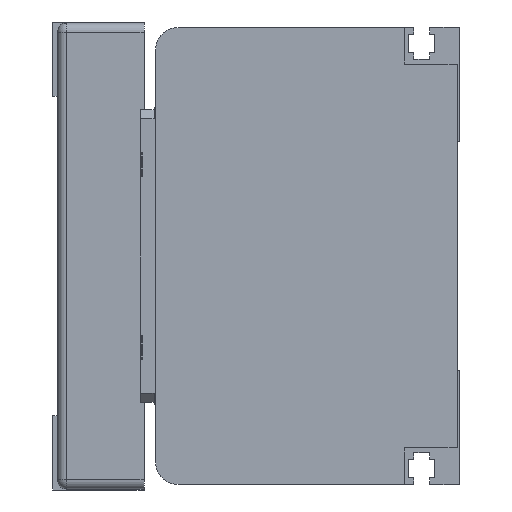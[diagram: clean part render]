
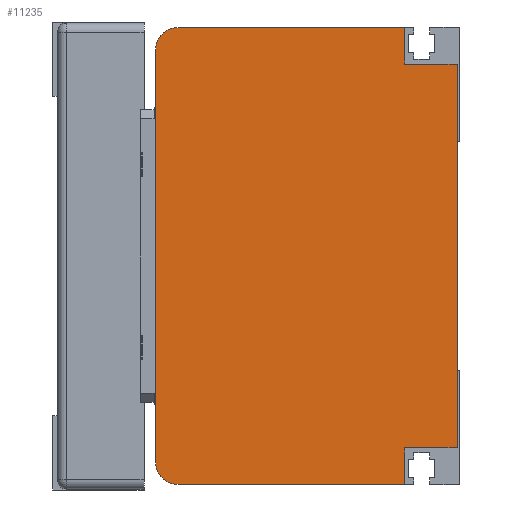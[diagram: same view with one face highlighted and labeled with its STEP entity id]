
A CAD part, left-side view. The second image highlights one B-rep face of the part: STEP entity #11235.
In plain terms, the highlighted planar face has unit normal (-1, 0, 0) as drawn and (0, 0, -1) by its records, which use the part's own axes.
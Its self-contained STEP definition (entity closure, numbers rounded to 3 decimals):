
#683=LINE('',#15708,#1742);
#684=LINE('',#15710,#1743);
#685=LINE('',#15712,#1744);
#686=LINE('',#15716,#1745);
#687=LINE('',#15720,#1746);
#688=LINE('',#15722,#1747);
#689=LINE('',#15724,#1748);
#690=LINE('',#15725,#1749);
#1742=VECTOR('',#13026,8.);
#1743=VECTOR('',#13027,8.);
#1744=VECTOR('',#13028,49.5);
#1745=VECTOR('',#13031,90.);
#1746=VECTOR('',#13034,49.5);
#1747=VECTOR('',#13035,8.);
#1748=VECTOR('',#13036,8.);
#1749=VECTOR('',#13037,98.);
#2757=PLANE('',#12014);
#3320=FACE_OUTER_BOUND('',#4013,.T.);
#4013=EDGE_LOOP('',(#7997,#7998,#7999,#8000,#8001,#8002,#8003,#8004,#8005,
#8006));
#4805=CIRCLE('',#12015,5.);
#4806=CIRCLE('',#12016,5.);
#5089=VERTEX_POINT('',#15706);
#5090=VERTEX_POINT('',#15707);
#5091=VERTEX_POINT('',#15709);
#5092=VERTEX_POINT('',#15711);
#5093=VERTEX_POINT('',#15713);
#5094=VERTEX_POINT('',#15715);
#5095=VERTEX_POINT('',#15717);
#5096=VERTEX_POINT('',#15719);
#5097=VERTEX_POINT('',#15721);
#5098=VERTEX_POINT('',#15723);
#6253=EDGE_CURVE('',#5089,#5090,#683,.T.);
#6254=EDGE_CURVE('',#5090,#5091,#684,.T.);
#6255=EDGE_CURVE('',#5091,#5092,#685,.T.);
#6256=EDGE_CURVE('',#5092,#5093,#4805,.T.);
#6257=EDGE_CURVE('',#5093,#5094,#686,.T.);
#6258=EDGE_CURVE('',#5094,#5095,#4806,.T.);
#6259=EDGE_CURVE('',#5095,#5096,#687,.T.);
#6260=EDGE_CURVE('',#5096,#5097,#688,.T.);
#6261=EDGE_CURVE('',#5097,#5098,#689,.T.);
#6262=EDGE_CURVE('',#5098,#5089,#690,.T.);
#7997=ORIENTED_EDGE('',*,*,#6253,.T.);
#7998=ORIENTED_EDGE('',*,*,#6254,.T.);
#7999=ORIENTED_EDGE('',*,*,#6255,.T.);
#8000=ORIENTED_EDGE('',*,*,#6256,.T.);
#8001=ORIENTED_EDGE('',*,*,#6257,.T.);
#8002=ORIENTED_EDGE('',*,*,#6258,.T.);
#8003=ORIENTED_EDGE('',*,*,#6259,.T.);
#8004=ORIENTED_EDGE('',*,*,#6260,.T.);
#8005=ORIENTED_EDGE('',*,*,#6261,.T.);
#8006=ORIENTED_EDGE('',*,*,#6262,.T.);
#11235=ADVANCED_FACE('',(#3320),#2757,.T.);
#12014=AXIS2_PLACEMENT_3D('',#15705,#13024,#13025);
#12015=AXIS2_PLACEMENT_3D('',#15714,#13029,#13030);
#12016=AXIS2_PLACEMENT_3D('',#15718,#13032,#13033);
#13024=DIRECTION('center_axis',(0.,0.,-1.));
#13025=DIRECTION('ref_axis',(-1.,0.,0.));
#13026=DIRECTION('',(0.,1.,0.));
#13027=DIRECTION('',(-1.,0.,0.));
#13028=DIRECTION('',(0.,1.,0.));
#13029=DIRECTION('center_axis',(0.,0.,-1.));
#13030=DIRECTION('ref_axis',(-1.,0.,0.));
#13031=DIRECTION('',(1.,0.,0.));
#13032=DIRECTION('center_axis',(0.,0.,-1.));
#13033=DIRECTION('ref_axis',(0.,1.,0.));
#13034=DIRECTION('',(0.,-1.,0.));
#13035=DIRECTION('',(-1.,0.,0.));
#13036=DIRECTION('',(0.,-1.,0.));
#13037=DIRECTION('',(-1.,0.,0.));
#15705=CARTESIAN_POINT('Origin',(0.,0.,-1100.));
#15706=CARTESIAN_POINT('',(-9.,-8.,-1100.));
#15707=CARTESIAN_POINT('',(-9.,3.5,-1100.));
#15708=CARTESIAN_POINT('',(-9.,-4.5,-1100.));
#15709=CARTESIAN_POINT('',(-17.,3.5,-1100.));
#15710=CARTESIAN_POINT('',(-9.,3.5,-1100.));
#15711=CARTESIAN_POINT('',(-17.,53.,-1100.));
#15712=CARTESIAN_POINT('',(-17.,3.5,-1100.));
#15713=CARTESIAN_POINT('',(-12.,58.,-1100.));
#15714=CARTESIAN_POINT('Origin',(-12.,53.,-1100.));
#15715=CARTESIAN_POINT('',(78.,58.,-1100.));
#15716=CARTESIAN_POINT('',(-12.,58.,-1100.));
#15717=CARTESIAN_POINT('',(83.,53.,-1100.));
#15718=CARTESIAN_POINT('Origin',(78.,53.,-1100.));
#15719=CARTESIAN_POINT('',(83.,3.5,-1100.));
#15720=CARTESIAN_POINT('',(83.,53.,-1100.));
#15721=CARTESIAN_POINT('',(75.,3.5,-1100.));
#15722=CARTESIAN_POINT('',(83.,3.5,-1100.));
#15723=CARTESIAN_POINT('',(75.,-8.,-1100.));
#15724=CARTESIAN_POINT('',(75.,3.5,-1100.));
#15725=CARTESIAN_POINT('',(82.,-8.,-1100.));
